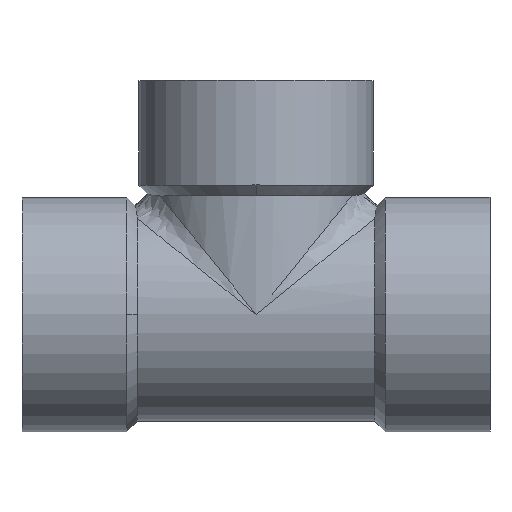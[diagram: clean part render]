
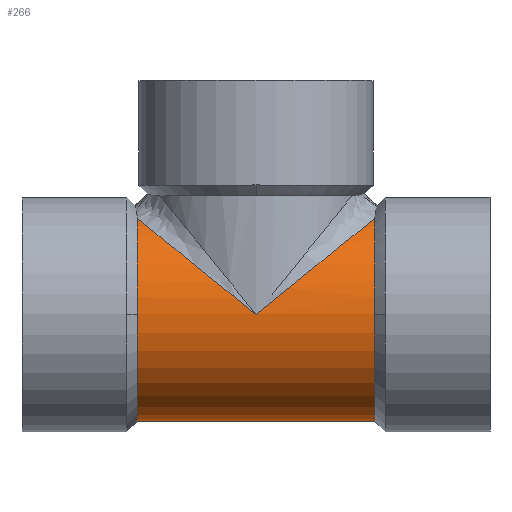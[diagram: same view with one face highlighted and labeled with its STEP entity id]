
A CAD part, top view. The second image highlights one B-rep face of the part: STEP entity #266.
In plain terms, the highlighted cylindrical face has radius 38.1 mm (diameter 76.2 mm), a partial arc.
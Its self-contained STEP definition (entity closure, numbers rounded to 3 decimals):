
#197=CARTESIAN_POINT('',(0.,0.,0.0));
#198=DIRECTION('',(1.0,0.,0.0));
#199=DIRECTION('',(0.0,1.0,0.0));
#200=AXIS2_PLACEMENT_3D('',#197,#198,#199);
#201=CYLINDRICAL_SURFACE('',#200,38.1);
#202=CARTESIAN_POINT('',(42.5,-38.1,0.));
#203=VERTEX_POINT('',#202);
#204=CARTESIAN_POINT('',(-42.5,-38.1,0.));
#205=VERTEX_POINT('',#204);
#206=CARTESIAN_POINT('',(42.5,-38.1,0.));
#207=DIRECTION('',(-1.0,0.0,0.0));
#208=VECTOR('',#207,85.);
#209=LINE('',#206,#208);
#210=EDGE_CURVE('',#203,#205,#209,.T.);
#211=ORIENTED_EDGE('',*,*,#210,.F.);
#212=CARTESIAN_POINT('',(42.5,0.,38.1));
#213=VERTEX_POINT('',#212);
#214=CARTESIAN_POINT('',(42.5,0.,0.0));
#215=DIRECTION('',(-1.0,0.0,0.0));
#216=DIRECTION('',(0.0,1.0,0.0));
#217=AXIS2_PLACEMENT_3D('',#214,#215,#216);
#218=CIRCLE('',#217,38.1);
#219=EDGE_CURVE('',#203,#213,#218,.T.);
#220=ORIENTED_EDGE('',*,*,#219,.T.);
#221=CARTESIAN_POINT('',(42.5,34.379,16.422));
#222=VERTEX_POINT('',#221);
#223=CARTESIAN_POINT('',(42.5,0.,0.0));
#224=DIRECTION('',(-1.0,0.0,0.0));
#225=DIRECTION('',(0.0,1.0,0.0));
#226=AXIS2_PLACEMENT_3D('',#223,#224,#225);
#227=CIRCLE('',#226,38.1);
#228=EDGE_CURVE('',#213,#222,#227,.T.);
#229=ORIENTED_EDGE('',*,*,#228,.T.);
#230=CARTESIAN_POINT('',(0.,0.,38.1));
#231=VERTEX_POINT('',#230);
#232=CARTESIAN_POINT('',(0.0,0.,0.0));
#233=DIRECTION('',(-0.629,0.777,0.));
#234=DIRECTION('',(0.777,0.629,0.0));
#235=AXIS2_PLACEMENT_3D('',#232,#233,#234);
#236=ELLIPSE('',#235,60.581,38.1);
#237=EDGE_CURVE('',#231,#222,#236,.T.);
#238=ORIENTED_EDGE('',*,*,#237,.F.);
#239=CARTESIAN_POINT('',(-42.5,34.379,16.422));
#240=VERTEX_POINT('',#239);
#241=CARTESIAN_POINT('',(0.0,0.0,0.0));
#242=DIRECTION('',(0.629,0.777,0.));
#243=DIRECTION('',(-0.777,0.629,0.0));
#244=AXIS2_PLACEMENT_3D('',#241,#242,#243);
#245=ELLIPSE('',#244,60.581,38.1);
#246=EDGE_CURVE('',#240,#231,#245,.T.);
#247=ORIENTED_EDGE('',*,*,#246,.F.);
#248=CARTESIAN_POINT('',(-42.5,0.,38.1));
#249=VERTEX_POINT('',#248);
#250=CARTESIAN_POINT('',(-42.5,0.,0.0));
#251=DIRECTION('',(1.0,0.0,0.0));
#252=DIRECTION('',(0.0,1.0,0.0));
#253=AXIS2_PLACEMENT_3D('',#250,#251,#252);
#254=CIRCLE('',#253,38.1);
#255=EDGE_CURVE('',#240,#249,#254,.T.);
#256=ORIENTED_EDGE('',*,*,#255,.T.);
#257=CARTESIAN_POINT('',(-42.5,0.,0.0));
#258=DIRECTION('',(1.0,0.0,0.0));
#259=DIRECTION('',(0.0,1.0,0.0));
#260=AXIS2_PLACEMENT_3D('',#257,#258,#259);
#261=CIRCLE('',#260,38.1);
#262=EDGE_CURVE('',#249,#205,#261,.T.);
#263=ORIENTED_EDGE('',*,*,#262,.T.);
#264=EDGE_LOOP('',(#211,#220,#229,#238,#247,#256,#263));
#265=FACE_OUTER_BOUND('',#264,.T.);
#266=ADVANCED_FACE('',(#265),#201,.T.);
